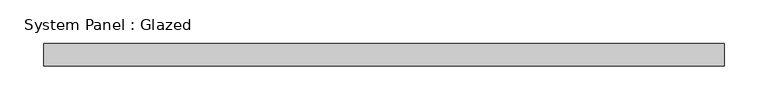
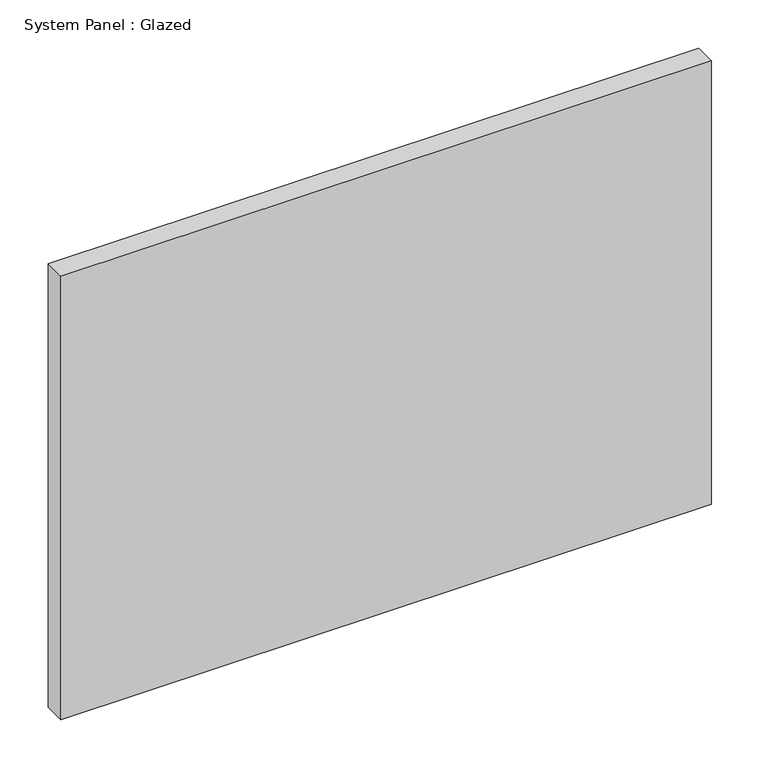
"""IFC4 building model written with IfcOpenShell, lengths in millimetres: plate geometry, System Panel : Glazed."""

from ifc_helpers import new_model, si_unit, origin, origin_with_axes, place, context, project, spatial, polyline, outline, extrude, source, transform, mapped, element, save


def system_panel_glazed_28924fc1(model_context):
    return source(origin(), model_context, "Body", "SweptSolid", [
        extrude(outline(polyline([(387.6296893, -12.7), (-387.6296893, -12.7), (-387.6296893, 12.7), (387.6296893, 12.7), (387.6296893, -12.7)])), origin_with_axes(), (0.0, 0.0, 1.0), 558.8),
    ])


if __name__ == "__main__":
    model = new_model("IFC4")
    model_context = context("Model", 3, world=origin())
    ifc_project = project(units=[si_unit("LENGTHUNIT", "METRE", prefix="MILLI")], contexts=[model_context])
    site = spatial("IfcSite", under=ifc_project)
    building = spatial("IfcBuilding", under=site)
    placement = place(None, origin())
    system_panel_glazed_shape = system_panel_glazed_28924fc1(model_context)
    element("IfcPlate", 1, ObjectType="System Panel : Glazed", at=placement, inside=building, context=model_context, shape_type="MappedRepresentation", body=[
        mapped(system_panel_glazed_shape, transform((0.0, 0.0, 0.0), x_axis=(1.0, 0.0, 0.0), y_axis=(0.0, 1.0, 0.0), z_axis=(0.0, 0.0, 1.0))),
    ])
    save(model, "model.ifc")
